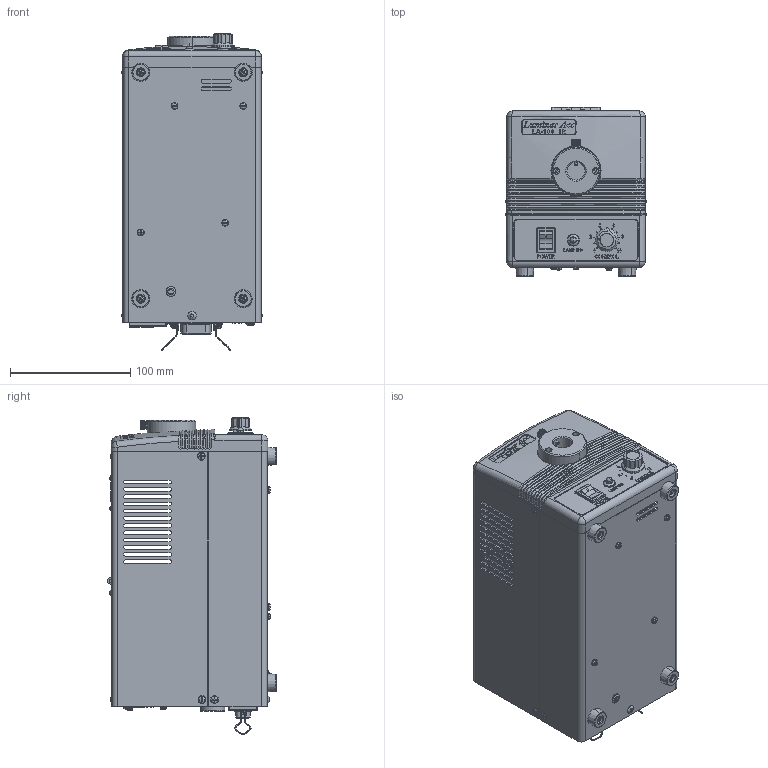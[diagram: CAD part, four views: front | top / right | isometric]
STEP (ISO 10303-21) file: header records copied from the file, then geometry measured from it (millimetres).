
FILE_DESCRIPTION (( 'STEP AP203' ), '1' );
FILE_NAME ('LA-100IR.STEP', '2018-04-17T06:28:26', ( '' ), ( '' ), 'SwSTEP 2.0', 'SolidWorks 2018', '' );
FILE_SCHEMA (( 'CONFIG_CONTROL_DESIGN' ));
Products named in the file (1): LA-100IR
Bounding box: 116.31 x 140.3 x 262.98 mm (x, y, z)
Surface area: 356347 mm2 (no closed solid volume)
Topology: 0 solids, 87 shells, 5488 faces, 14283 edges, 9190 vertices
Faces by surface type: plane 2741, cylinder 1297, bspline 1000, cone 266, torus 148, sphere 36
Entity records: 209682 total; most frequent: CARTESIAN_POINT 81011, ORIENTED_EDGE 28400, DIRECTION 23626, EDGE_CURVE 14201, VERTEX_POINT 9190, LINE 8180, VECTOR 8180, AXIS2_PLACEMENT_3D 7723
